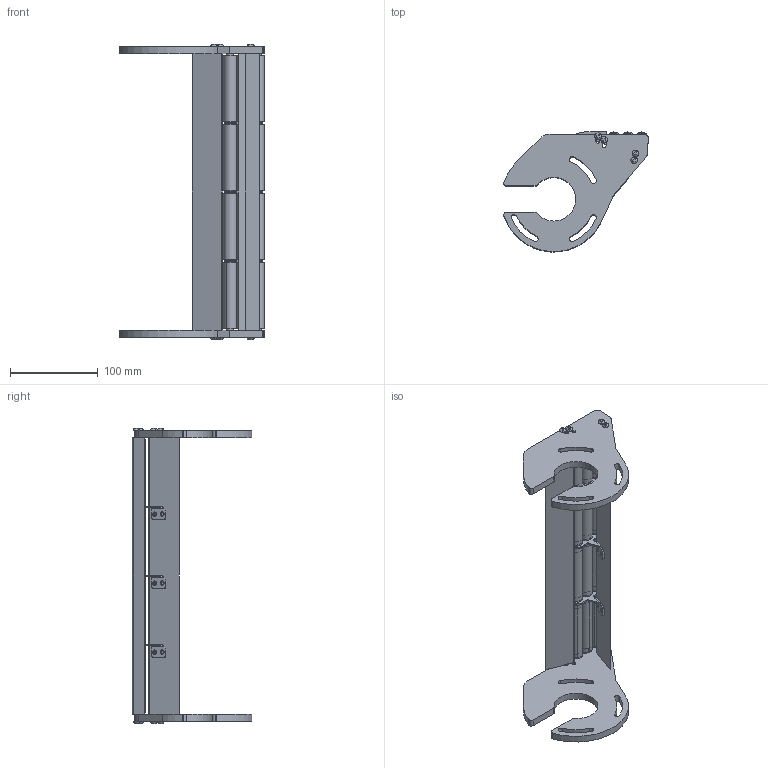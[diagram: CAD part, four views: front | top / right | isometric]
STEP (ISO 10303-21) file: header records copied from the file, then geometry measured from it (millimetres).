
FILE_DESCRIPTION (( 'STEP AP214' ), '1' );
FILE_NAME ('CAB 12 TGRI 1.STEP', '2024-02-27T08:04:37', ( '' ), ( '' ), 'SwSTEP 2.0', 'SolidWorks 2022', '' );
FILE_SCHEMA (( 'AUTOMOTIVE_DESIGN' ));
Length unit declared in the file: millimetre
Products named in the file (15): PT-F2 - CAB 12 percé; SA TGRI; AXE TGRI CAB 12; PSTI CAB 1 Symétrie; ENTRETOISE SA TGRI; Galet + roulement CAB 12; Insert M4 TB; GR CAB 12; PSTI CAB 1; PT-F2 - CAB 12; TBHC 4X16; ENTRETOISE TGRI CAB-F2-R-HEF; ROULEMENT TGRI CAB FLEXTOO; SA TGRI + ENTRETOISE; CAB 12 TGRI 1
Assembly tree (49 placements, depth 3):
  CAB 12 TGRI 1
    PSTI CAB 1 Symétrie
    PSTI CAB 1
    PT-F2 - CAB 12
    PT-F2 - CAB 12 percé
    AXE TGRI CAB 12  x3
    Galet + roulement CAB 12  x12
      GR CAB 12
      ROULEMENT TGRI CAB FLEXTOO
    ENTRETOISE TGRI CAB-F2-R-HEF  x6
    SA TGRI + ENTRETOISE  x3
      SA TGRI
      ENTRETOISE SA TGRI
    Insert M4 TB  x6
    TBHC 4X16  x8
Bounding box: 164.87 x 136.6 x 336.78 mm (x, y, z)
Volume: 496037.8 mm3; surface area: 230258.6 mm2
Topology: 75 solids, 75 shells, 2687 faces, 5937 edges, 3493 vertices
Faces by surface type: cone 1044, cylinder 817, plane 435, torus 337, sphere 39, bspline 15
Entity records: 18442 total; most frequent: CARTESIAN_POINT 3391, DIRECTION 3255, ORIENTED_EDGE 2696, EDGE_CURVE 1348, AXIS2_PLACEMENT_3D 1320, VERTEX_POINT 817, CIRCLE 695, EDGE_LOOP 635
